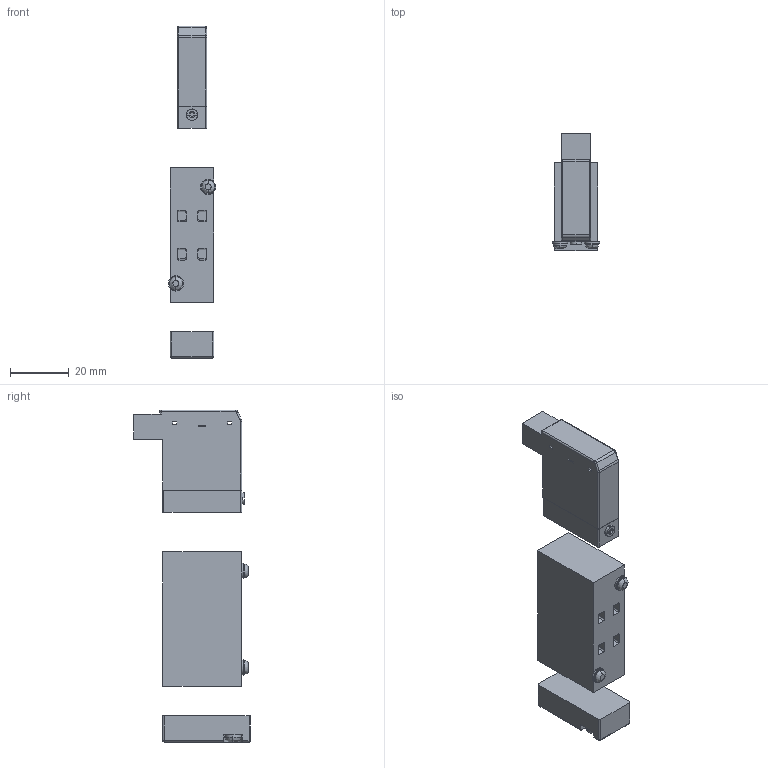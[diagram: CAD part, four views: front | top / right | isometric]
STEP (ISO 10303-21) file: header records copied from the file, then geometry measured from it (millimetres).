
FILE_DESCRIPTION( (''), '2;1');
FILE_NAME ('CVICAD02.3360.F15T2-A1_21638.stp','2021-07-12T19:13:33',(''),(''),'spGate 12.6.6','','');
FILE_SCHEMA (('AUTOMOTIVE_DESIGN'));
Length unit declared in the file: millimetre
Products named in the file (8): Assembly; CVICAD02-prt0; CVICAD02-prt1; CVICAD02-prt2; CVICAD02-prt3; CVICAD02-prt4; CVICAD02-prt5; CVICAD02-prt6
Assembly tree (7 placements, depth 2):
  Assembly
    CVICAD02-prt0
    CVICAD02-prt1
    CVICAD02-prt2
    CVICAD02-prt3
    CVICAD02-prt4
    CVICAD02-prt5
    CVICAD02-prt6
Bounding box: 16.2 x 39.99 x 113.5 mm (x, y, z)
Volume: 32260.9 mm3; surface area: 11505.6 mm2
Topology: 4 solids, 4 shells, 163 faces, 402 edges, 253 vertices
Faces by surface type: plane 84, cylinder 60, bspline 14, sphere 5
Entity records: 8384 total; most frequent: CARTESIAN_POINT 1207, ORIENTED_EDGE 794, DIRECTION 777, COLOUR_RGB 564, PRESENTATION_STYLE_ASSIGNMENT 564, STYLED_ITEM 564, EDGE_CURVE 397, DRAUGHTING_PRE_DEFINED_CURVE_FONT 397
